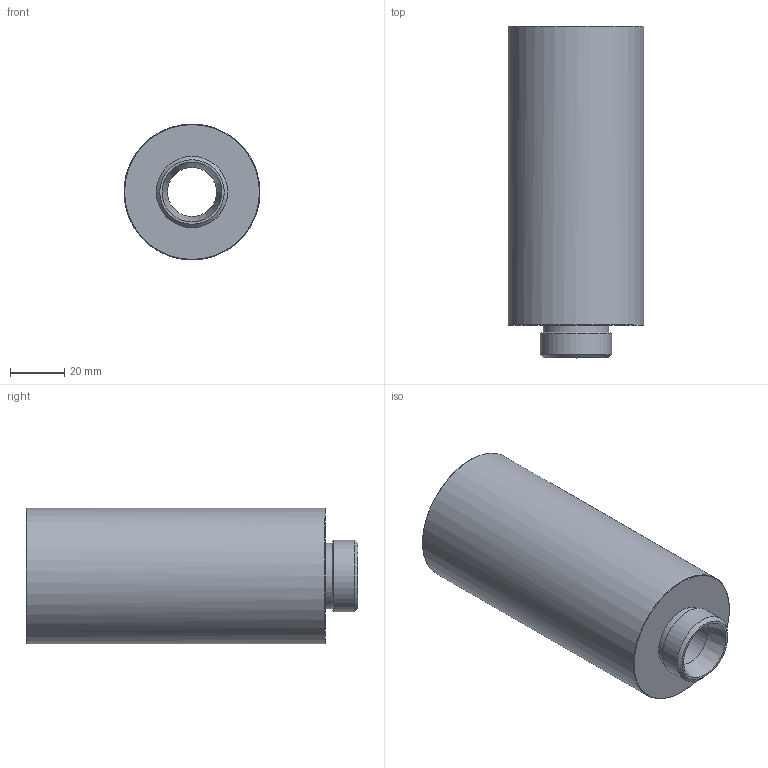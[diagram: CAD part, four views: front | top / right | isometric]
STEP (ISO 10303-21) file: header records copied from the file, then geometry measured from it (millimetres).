
FILE_DESCRIPTION(/* description */ ('SILENZIATORE G3/4"'),/* implementation_level */ '2;1');
FILE_NAME(/* name */ 'C:\PNX_VAULTFOLDER\Area Tecnica\Disegni\VARIE-3D\Componenti\1900 (vuoto)\19S34_S.stp',/* time_stamp */ '2019-09-13T14:46:52+02:00',/* author */ ('maniean1'),/* organization */ ('Pneumax S.p.A.'),/* preprocessor_version */ 'ST-DEVELOPER v17',/* originating_system */ 'Autodesk Inventor 2019',/* authorisation */ '');
FILE_SCHEMA (('AUTOMOTIVE_DESIGN { 1 0 10303 214 3 1 1 }'));
Length unit declared in the file: millimetre
Products named in the file (1): 19S34.S
Bounding box: 50 x 122 x 50 mm (x, y, z)
Volume: 166049.9 mm3; surface area: 30803 mm2
Topology: 1 solids, 1 shells, 16 faces, 41 edges, 29 vertices
Faces by surface type: cone 7, cylinder 5, plane 4
Full cylindrical faces by diameter (mm): 18 x1, 24 x1, 25 x1, 26.2 x1, 50 x1
Entity records: 587 total; most frequent: DIRECTION 104, CARTESIAN_POINT 87, ORIENTED_EDGE 82, AXIS2_PLACEMENT_3D 46, EDGE_CURVE 41, CIRCLE 29, VERTEX_POINT 29, EDGE_LOOP 20
